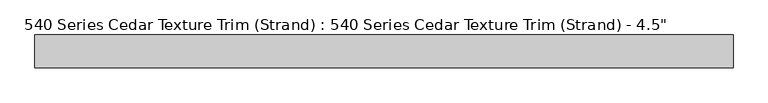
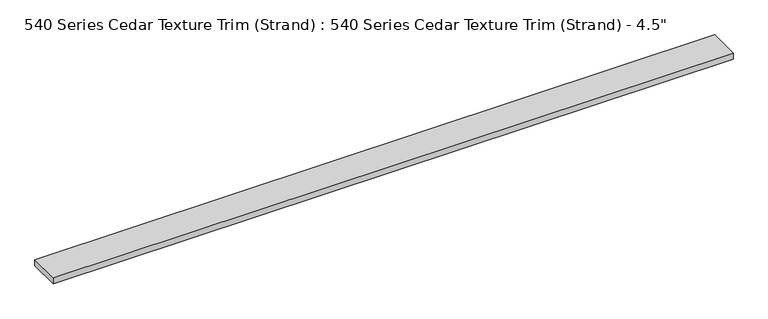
"""IFC4 building model written with IfcOpenShell, lengths in millimetres: proxy geometry."""

from ifc_helpers import new_model, si_unit, origin, origin_with_axes, place, context, project, spatial, polyline, outline, extrude, source, transform, mapped, element, save


def proxy_8fcd11ff(model_context):
    return source(origin(), model_context, "Body", "SweptSolid", [
        extrude(outline(polyline([(2438.4, 0.0), (0.0, 0.0), (0.0, 114.3), (2438.4, 114.3), (2438.4, 0.0)])), origin_with_axes(), (0.0, 0.0, 1.0), 23.1179687),
    ])


if __name__ == "__main__":
    model = new_model("IFC4")
    model_context = context("Model", 3, world=origin())
    ifc_project = project(units=[si_unit("LENGTHUNIT", "METRE", prefix="MILLI")], contexts=[model_context])
    site = spatial("IfcSite", under=ifc_project)
    building = spatial("IfcBuilding", under=site)
    placement = place(None, origin())
    proxy_shape = proxy_8fcd11ff(model_context)
    element("IfcBuildingElementProxy", 1, Name="540 Series Cedar Texture Trim (Strand) : 540 Series Cedar Texture Trim (Strand) - 4.5\"", ObjectType="540 Series Cedar Texture Trim (Strand) : 540 Series Cedar Texture Trim (Strand) - 4.5\"", at=placement, inside=building, context=model_context, shape_type="MappedRepresentation", body=[
        mapped(proxy_shape, transform((0.0, 0.0, 0.0), x_axis=(1.0, 0.0, 0.0), y_axis=(0.0, 1.0, 0.0), z_axis=(0.0, 0.0, 1.0))),
    ])
    save(model, "model.ifc")
